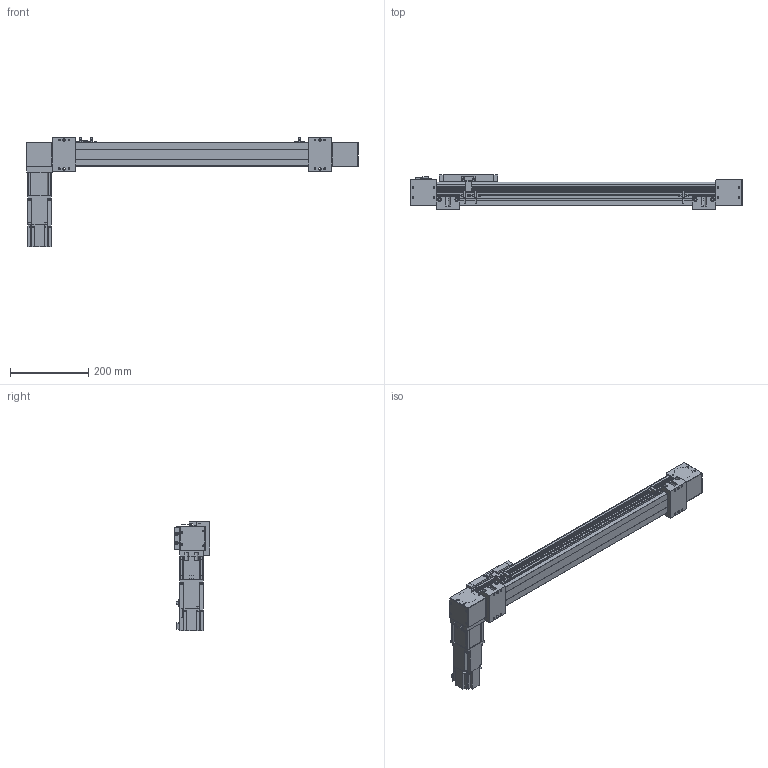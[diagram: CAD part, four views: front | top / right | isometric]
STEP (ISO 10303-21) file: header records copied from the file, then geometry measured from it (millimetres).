
FILE_DESCRIPTION(/* description */ ('STEP AP203'),/* implementation_level */ '2;1');
FILE_NAME(/* name */ 'SK60-P13-S550-BR-T40-C1-N(0)',/* time_stamp */ '2023-04-06T03:59:13+02:00',/* author */ ('License CC BY-ND 4.0'),/* organization */ ('CADENAS'),/* preprocessor_version */ 'ST-DEVELOPER v19.3',/* originating_system */ 'PARTsolutions',/* authorisation */ ' ');
FILE_SCHEMA (('CONFIG_CONTROL_DESIGN'));
Length unit declared in the file: millimetre
Products named in the file (11): SK60-P13-S550-BR-T40-C1-N(0); PSC140-sensor; SK60-S450_seat; SK60-S450-BL-C1_slider; SK60_body3; SK60_body6; SK60-BL_body2; T40-p1; SK60_body5; SK60_body4; SK60-S550-BR-C1_body
Assembly tree (17 placements, depth 2):
  SK60-P13-S550-BR-T40-C1-N(0)
    PSC140-sensor  x3
    SK60-S450_seat  x2
    SK60-S450-BL-C1_slider
    SK60_body3  x3
    SK60_body6  x2
    SK60-BL_body2  x2
    T40-p1
    SK60_body5
    SK60_body4
    SK60-S550-BR-C1_body
Bounding box: 850 x 90 x 279.1 mm (x, y, z)
Volume: 3522089.6 mm3; surface area: 518256.2 mm2
Topology: 17 solids, 21 shells, 834 faces, 2109 edges, 1394 vertices
Faces by surface type: plane 544, cylinder 266, cone 22, torus 2
Full cylindrical faces by diameter (mm): 2.8 x3, 3.3 x4, 4.2 x8, 4.5 x26, 4.6 x3, 4.917 x16, 5 x2, 5.478 x4, 5.5 x19, 6.5 x4, 8 x4, 8.5 x4, 9.988 x4, 10 x8, 13.556 x1, 14 x1, 14.586 x1, 19.692 x1, 38.432 x2, 43 x1, 44 x3, 47 x2, 50 x2
Entity records: 19371 total; most frequent: DIRECTION 3292, CARTESIAN_POINT 3289, ORIENTED_EDGE 3050, EDGE_CURVE 1525, AXIS2_PLACEMENT_3D 1100, LINE 1092, VECTOR 1092, VERTEX_POINT 1077
